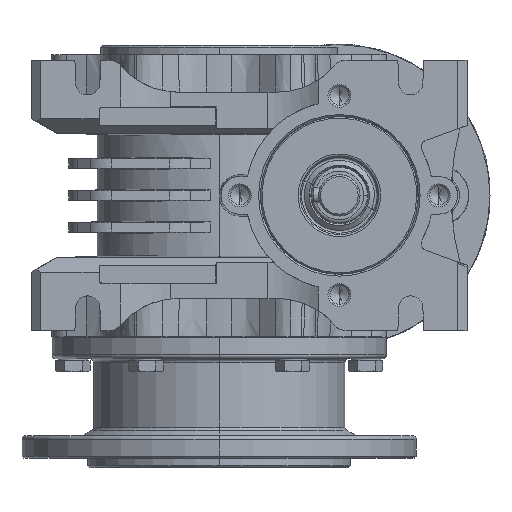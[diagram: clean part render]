
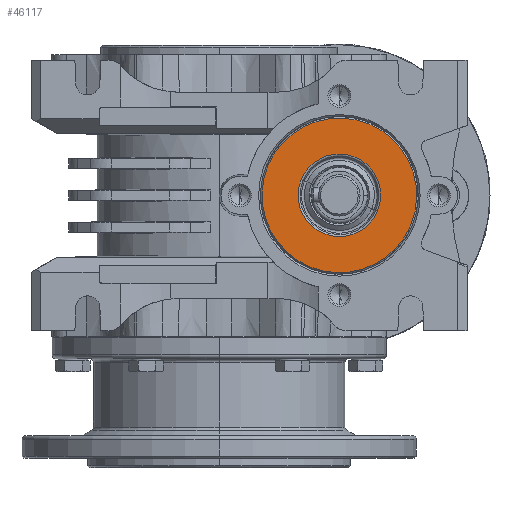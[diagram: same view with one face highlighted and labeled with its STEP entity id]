
A CAD part, left-side view. The second image highlights one B-rep face of the part: STEP entity #46117.
In plain terms, the highlighted planar face has unit normal (-1, 0, 0).
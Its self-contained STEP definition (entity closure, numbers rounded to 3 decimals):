
#3336 = CARTESIAN_POINT ( 'NONE',  ( -50., -42.166, -4.2 ) ) ;
#4806 = FACE_OUTER_BOUND ( 'NONE', #6192, .T. ) ;
#5570 = AXIS2_PLACEMENT_3D ( 'NONE', #30000, #44307, #61330 ) ;
#6048 = DIRECTION ( 'NONE',  ( -1., 0., 0. ) ) ;
#6192 = EDGE_LOOP ( 'NONE', ( #53560, #64502 ) ) ;
#7041 = CARTESIAN_POINT ( 'NONE',  ( -50., -32., 0. ) ) ;
#7708 = DIRECTION ( 'NONE',  ( 0., 0.924, 0.382 ) ) ;
#14995 = CARTESIAN_POINT ( 'NONE',  ( -50., -51.039, -7.866 ) ) ;
#20378 = DIRECTION ( 'NONE',  ( 0., 0.924, 0.382 ) ) ;
#21358 = ORIENTED_EDGE ( 'NONE', *, *, #54778, .F. ) ;
#23495 = VERTEX_POINT ( 'NONE', #14995 ) ;
#30000 = CARTESIAN_POINT ( 'NONE',  ( -50., -32., 0. ) ) ;
#30771 = CARTESIAN_POINT ( 'NONE',  ( -50., -32., 0. ) ) ;
#31651 = VERTEX_POINT ( 'NONE', #3336 ) ;
#32302 = CARTESIAN_POINT ( 'NONE',  ( -50., -32., 0. ) ) ;
#35249 = CARTESIAN_POINT ( 'NONE',  ( -50., -21.834, 4.2 ) ) ;
#36498 = FACE_BOUND ( 'NONE', #43827, .T. ) ;
#38989 = CIRCLE ( 'NONE', #45546, 20.6 ) ;
#43631 = CIRCLE ( 'NONE', #5570, 20.6 ) ;
#43827 = EDGE_LOOP ( 'NONE', ( #49341, #21358 ) ) ;
#44307 = DIRECTION ( 'NONE',  ( -1., 0., 0. ) ) ;
#45058 = DIRECTION ( 'NONE',  ( -1., 0., 0. ) ) ;
#45153 = VERTEX_POINT ( 'NONE', #52156 ) ;
#45546 = AXIS2_PLACEMENT_3D ( 'NONE', #7041, #64604, #7708 ) ;
#45715 = DIRECTION ( 'NONE',  ( 0., 0.924, 0.382 ) ) ;
#46117 = ADVANCED_FACE ( 'NONE', ( #4806, #36498 ), #55906, .T. ) ;
#47482 = AXIS2_PLACEMENT_3D ( 'NONE', #62389, #66162, #45715 ) ;
#49341 = ORIENTED_EDGE ( 'NONE', *, *, #62341, .F. ) ;
#49613 = CIRCLE ( 'NONE', #63816, 11. ) ;
#49755 = VERTEX_POINT ( 'NONE', #35249 ) ;
#51316 = AXIS2_PLACEMENT_3D ( 'NONE', #32302, #6048, #20378 ) ;
#51507 = DIRECTION ( 'NONE',  ( 0., 0.924, 0.382 ) ) ;
#51846 = EDGE_CURVE ( 'NONE', #23495, #45153, #43631, .T. ) ;
#52156 = CARTESIAN_POINT ( 'NONE',  ( -50., -12.961, 7.866 ) ) ;
#53560 = ORIENTED_EDGE ( 'NONE', *, *, #51846, .T. ) ;
#54778 = EDGE_CURVE ( 'NONE', #31651, #49755, #49613, .T. ) ;
#55906 = PLANE ( 'NONE',  #47482 ) ;
#56959 = EDGE_CURVE ( 'NONE', #45153, #23495, #38989, .T. ) ;
#61156 = CIRCLE ( 'NONE', #51316, 11. ) ;
#61330 = DIRECTION ( 'NONE',  ( 0., 0.924, 0.382 ) ) ;
#62341 = EDGE_CURVE ( 'NONE', #49755, #31651, #61156, .T. ) ;
#62389 = CARTESIAN_POINT ( 'NONE',  ( -50., -27.8, -10.166 ) ) ;
#63816 = AXIS2_PLACEMENT_3D ( 'NONE', #30771, #45058, #51507 ) ;
#64502 = ORIENTED_EDGE ( 'NONE', *, *, #56959, .T. ) ;
#64604 = DIRECTION ( 'NONE',  ( -1., 0., 0. ) ) ;
#66162 = DIRECTION ( 'NONE',  ( -1., 0., 0. ) ) ;
